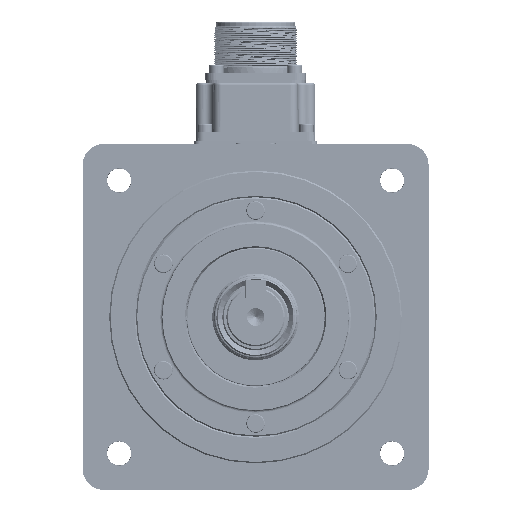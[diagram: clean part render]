
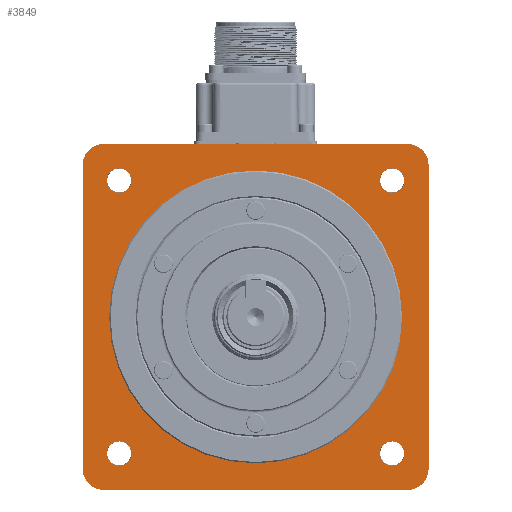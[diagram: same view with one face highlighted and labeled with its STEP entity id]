
A CAD part, front view. The second image highlights one B-rep face of the part: STEP entity #3849.
In plain terms, the highlighted planar face has unit normal (0, -1, 0).
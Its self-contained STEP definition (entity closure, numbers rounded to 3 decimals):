
#3849 = ADVANCED_FACE( '', ( #9405, #9406, #9407, #9408, #9409, #9410 ), #9411, .F. );
#9405 = FACE_BOUND( '', #18245, .T. );
#9406 = FACE_OUTER_BOUND( '', #18246, .T. );
#9407 = FACE_BOUND( '', #18247, .T. );
#9408 = FACE_BOUND( '', #18248, .T. );
#9409 = FACE_BOUND( '', #18249, .T. );
#9410 = FACE_BOUND( '', #18250, .T. );
#9411 = PLANE( '', #18251 );
#18245 = EDGE_LOOP( '', ( #41127 ) );
#18246 = EDGE_LOOP( '', ( #41128, #41129, #41130, #41131, #41132, #41133, #41134, #41135 ) );
#18247 = EDGE_LOOP( '', ( #41136 ) );
#18248 = EDGE_LOOP( '', ( #41137 ) );
#18249 = EDGE_LOOP( '', ( #41138 ) );
#18250 = EDGE_LOOP( '', ( #41139 ) );
#18251 = AXIS2_PLACEMENT_3D( '', #41140, #41141, #41142 );
#41127 = ORIENTED_EDGE( '', *, *, #63979, .F. );
#41128 = ORIENTED_EDGE( '', *, *, #63980, .F. );
#41129 = ORIENTED_EDGE( '', *, *, #63981, .T. );
#41130 = ORIENTED_EDGE( '', *, *, #63982, .F. );
#41131 = ORIENTED_EDGE( '', *, *, #63983, .T. );
#41132 = ORIENTED_EDGE( '', *, *, #63984, .F. );
#41133 = ORIENTED_EDGE( '', *, *, #63985, .T. );
#41134 = ORIENTED_EDGE( '', *, *, #63986, .F. );
#41135 = ORIENTED_EDGE( '', *, *, #63987, .T. );
#41136 = ORIENTED_EDGE( '', *, *, #63988, .F. );
#41137 = ORIENTED_EDGE( '', *, *, #63989, .F. );
#41138 = ORIENTED_EDGE( '', *, *, #63990, .F. );
#41139 = ORIENTED_EDGE( '', *, *, #63991, .F. );
#41140 = CARTESIAN_POINT( '', ( 0., 1.2, 55. ) );
#41141 = DIRECTION( '', ( 0., 1., 0. ) );
#41142 = DIRECTION( '', ( 0., 0., 1. ) );
#63979 = EDGE_CURVE( '', #72995, #72995, #72996, .T. );
#63980 = EDGE_CURVE( '', #72997, #72998, #72999, .F. );
#63981 = EDGE_CURVE( '', #72997, #73000, #73001, .T. );
#63982 = EDGE_CURVE( '', #73002, #73000, #73003, .F. );
#63983 = EDGE_CURVE( '', #73002, #73004, #73005, .T. );
#63984 = EDGE_CURVE( '', #73006, #73004, #73007, .F. );
#63985 = EDGE_CURVE( '', #73006, #73008, #73009, .T. );
#63986 = EDGE_CURVE( '', #73010, #73008, #73011, .F. );
#63987 = EDGE_CURVE( '', #73010, #72998, #73012, .T. );
#63988 = EDGE_CURVE( '', #73013, #73013, #73014, .F. );
#63989 = EDGE_CURVE( '', #73015, #73015, #73016, .F. );
#63990 = EDGE_CURVE( '', #73017, #73017, #73018, .F. );
#63991 = EDGE_CURVE( '', #73019, #73019, #73020, .F. );
#72995 = VERTEX_POINT( '', #85800 );
#72996 = CIRCLE( '', #85801, 55. );
#72997 = VERTEX_POINT( '', #85802 );
#72998 = VERTEX_POINT( '', #85803 );
#72999 = CIRCLE( '', #85804, 8. );
#73000 = VERTEX_POINT( '', #85805 );
#73001 = LINE( '', #85806, #85807 );
#73002 = VERTEX_POINT( '', #85808 );
#73003 = CIRCLE( '', #85809, 8. );
#73004 = VERTEX_POINT( '', #85810 );
#73005 = LINE( '', #85811, #85812 );
#73006 = VERTEX_POINT( '', #85813 );
#73007 = CIRCLE( '', #85814, 8. );
#73008 = VERTEX_POINT( '', #85815 );
#73009 = LINE( '', #85816, #85817 );
#73010 = VERTEX_POINT( '', #85818 );
#73011 = CIRCLE( '', #85819, 8. );
#73012 = LINE( '', #85820, #85821 );
#73013 = VERTEX_POINT( '', #85822 );
#73014 = CIRCLE( '', #85823, 4.6 );
#73015 = VERTEX_POINT( '', #85824 );
#73016 = CIRCLE( '', #85825, 4.6 );
#73017 = VERTEX_POINT( '', #85826 );
#73018 = CIRCLE( '', #85827, 4.6 );
#73019 = VERTEX_POINT( '', #85828 );
#73020 = CIRCLE( '', #85829, 4.6 );
#85800 = CARTESIAN_POINT( '', ( 0., 1.2, -55. ) );
#85801 = AXIS2_PLACEMENT_3D( '', #113496, #113497, #113498 );
#85802 = CARTESIAN_POINT( '', ( -65., 1.2, 57. ) );
#85803 = CARTESIAN_POINT( '', ( -57., 1.2, 65. ) );
#85804 = AXIS2_PLACEMENT_3D( '', #113499, #113500, #113501 );
#85805 = CARTESIAN_POINT( '', ( -65., 1.2, -57. ) );
#85806 = CARTESIAN_POINT( '', ( -65., 1.2, 65. ) );
#85807 = VECTOR( '', #113502, 1000. );
#85808 = CARTESIAN_POINT( '', ( -57., 1.2, -65. ) );
#85809 = AXIS2_PLACEMENT_3D( '', #113503, #113504, #113505 );
#85810 = CARTESIAN_POINT( '', ( 57., 1.2, -65. ) );
#85811 = CARTESIAN_POINT( '', ( -65., 1.2, -65. ) );
#85812 = VECTOR( '', #113506, 1000. );
#85813 = CARTESIAN_POINT( '', ( 65., 1.2, -57. ) );
#85814 = AXIS2_PLACEMENT_3D( '', #113507, #113508, #113509 );
#85815 = CARTESIAN_POINT( '', ( 65., 1.2, 57. ) );
#85816 = CARTESIAN_POINT( '', ( 65., 1.2, -65. ) );
#85817 = VECTOR( '', #113510, 1000. );
#85818 = CARTESIAN_POINT( '', ( 57., 1.2, 65. ) );
#85819 = AXIS2_PLACEMENT_3D( '', #113511, #113512, #113513 );
#85820 = CARTESIAN_POINT( '', ( 65., 1.2, 65. ) );
#85821 = VECTOR( '', #113514, 1000. );
#85822 = CARTESIAN_POINT( '', ( -51.265, 1.2, 55.866 ) );
#85823 = AXIS2_PLACEMENT_3D( '', #113515, #113516, #113517 );
#85824 = CARTESIAN_POINT( '', ( -51.265, 1.2, -46.665 ) );
#85825 = AXIS2_PLACEMENT_3D( '', #113518, #113519, #113520 );
#85826 = CARTESIAN_POINT( '', ( 51.265, 1.2, -46.665 ) );
#85827 = AXIS2_PLACEMENT_3D( '', #113521, #113522, #113523 );
#85828 = CARTESIAN_POINT( '', ( 51.265, 1.2, 55.866 ) );
#85829 = AXIS2_PLACEMENT_3D( '', #113524, #113525, #113526 );
#113496 = CARTESIAN_POINT( '', ( 0., 1.2, 0. ) );
#113497 = DIRECTION( '', ( 0., -1., 0. ) );
#113498 = DIRECTION( '', ( 0., 0., -1. ) );
#113499 = CARTESIAN_POINT( '', ( -57., 1.2, 57. ) );
#113500 = DIRECTION( '', ( 0., -1., 0. ) );
#113501 = DIRECTION( '', ( 0., 0., -1. ) );
#113502 = DIRECTION( '', ( 0., 0., -1. ) );
#113503 = CARTESIAN_POINT( '', ( -57., 1.2, -57. ) );
#113504 = DIRECTION( '', ( 0., -1., 0. ) );
#113505 = DIRECTION( '', ( 0., 0., -1. ) );
#113506 = DIRECTION( '', ( 1., 0., 0. ) );
#113507 = CARTESIAN_POINT( '', ( 57., 1.2, -57. ) );
#113508 = DIRECTION( '', ( 0., -1., 0. ) );
#113509 = DIRECTION( '', ( 0., 0., -1. ) );
#113510 = DIRECTION( '', ( 0., 0., 1. ) );
#113511 = CARTESIAN_POINT( '', ( 57., 1.2, 57. ) );
#113512 = DIRECTION( '', ( 0., -1., 0. ) );
#113513 = DIRECTION( '', ( 0., 0., -1. ) );
#113514 = DIRECTION( '', ( -1., 0., 0. ) );
#113515 = CARTESIAN_POINT( '', ( -51.265, 1.2, 51.265 ) );
#113516 = DIRECTION( '', ( 0., 1., 0. ) );
#113517 = DIRECTION( '', ( 0., 0., 1. ) );
#113518 = CARTESIAN_POINT( '', ( -51.265, 1.2, -51.265 ) );
#113519 = DIRECTION( '', ( 0., 1., 0. ) );
#113520 = DIRECTION( '', ( 0., 0., 1. ) );
#113521 = CARTESIAN_POINT( '', ( 51.265, 1.2, -51.265 ) );
#113522 = DIRECTION( '', ( 0., 1., 0. ) );
#113523 = DIRECTION( '', ( 0., 0., 1. ) );
#113524 = CARTESIAN_POINT( '', ( 51.265, 1.2, 51.265 ) );
#113525 = DIRECTION( '', ( 0., 1., 0. ) );
#113526 = DIRECTION( '', ( 0., 0., 1. ) );
